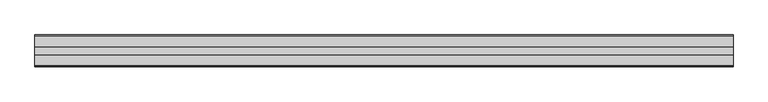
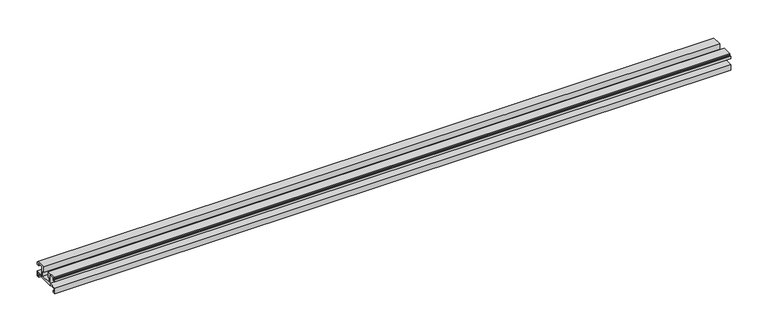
"""IFC4 building model written with IfcOpenShell, lengths in millimetres: proxy geometry, Weiku - Montante - Acoplamento vidro : Weiku - Montante - Acoplamento vidro."""

import ifcopenshell
import ifcopenshell.guid

model = None  # the IFC model being written
_history = None  # IfcOwnerHistory: only IFC2X3 demands one
_inside = {}  # id of a spatial element -> (the spatial element, [elements in it])
_under = {}  # id of a project, library or spatial element -> (it, [spatial elements below it])
_declared = {}  # id of a project -> (the project, [libraries it declares])
_typed = {}  # id of a type object -> (the type object, [elements of that type])
_made_of = {}  # id of a material, layer set ... -> (it, [elements and type objects made of it])


def new_model(schema):
    """Start an empty IFC model of exactly this schema.

    Asked for "IFC4X3", IfcOpenShell would pick the latest addendum, in which some entities
    have other attributes; the version numbers below select the first issue.
    IFC2X3 requires an IfcOwnerHistory on every rooted entity: one is made here for all.
    """
    global model, _history
    if schema == "IFC4X3":
        model = ifcopenshell.file(schema_version=(4, 3, 0, 0))
    else:
        model = ifcopenshell.file(schema=schema)
    _inside.clear()
    _under.clear()
    _declared.clear()
    _typed.clear()
    _made_of.clear()
    _history = None
    if model.schema == "IFC2X3":
        org = make("IfcOrganization", Name="unknown")
        user = make(
            "IfcPersonAndOrganization",
            ThePerson=make("IfcPerson", FamilyName="unknown"),
            TheOrganization=org,
        )
        app = make(
            "IfcApplication",
            ApplicationDeveloper=org,
            Version="unknown",
            ApplicationFullName="unknown",
            ApplicationIdentifier="unknown",
        )
        _history = make(
            "IfcOwnerHistory",
            OwningUser=user,
            OwningApplication=app,
            ChangeAction="ADDED",
            CreationDate=0,
        )
    return model


def make(cls, **values):
    """One entity of the class cls with the attributes given. An attribute that is None is left unset."""
    return model.create_entity(
        cls, **{name: value for name, value in values.items() if value is not None}
    )


def rooted(cls, **values):
    """An entity with a GlobalId (a new one), such as an element, a storey or a relation."""
    return make(cls, GlobalId=ifcopenshell.guid.new(), OwnerHistory=_history, **values)


def si_unit(unit_type, name, prefix=None):
    """IfcSIUnit, for example si_unit("LENGTHUNIT", "METRE", prefix="MILLI")."""
    return make("IfcSIUnit", UnitType=unit_type, Prefix=prefix, Name=name)


def assignment(units):
    """IfcUnitAssignment: the units of a project."""
    return None if units is None else make("IfcUnitAssignment", Units=units)


def point(xyz):
    """IfcCartesianPoint."""
    return None if xyz is None else make("IfcCartesianPoint", Coordinates=xyz)


def direction(xyz):
    """IfcDirection."""
    return None if xyz is None else make("IfcDirection", DirectionRatios=xyz)


def frame(location, z_axis=None, x_axis=None):
    """IfcAxis2Placement3D, a coordinate frame: its origin and axes. An axis left out is left unset."""
    return make(
        "IfcAxis2Placement3D",
        Location=point(location),
        Axis=direction(z_axis),
        RefDirection=direction(x_axis),
    )


def origin():
    """The frame at (0, 0, 0) with its axes left unset."""
    return frame((0.0, 0.0, 0.0))


def place(relative_to, where):
    """IfcLocalPlacement: puts the frame where relative to a parent placement (None: the world)."""
    return make(
        "IfcLocalPlacement", PlacementRelTo=relative_to, RelativePlacement=where
    )


def context(
    kind, dimensions, precision=None, world=None, true_north=None, identifier=None
):
    """IfcGeometricRepresentationContext, for example the 3D "Model" context."""
    return make(
        "IfcGeometricRepresentationContext",
        ContextIdentifier=identifier,
        ContextType=kind,
        CoordinateSpaceDimension=dimensions,
        Precision=precision,
        WorldCoordinateSystem=world,
        TrueNorth=true_north,
    )


def project(units=None, contexts=None):
    """IfcProject with its units and contexts."""
    return rooted(
        "IfcProject",
        Name="project",
        RepresentationContexts=contexts,
        UnitsInContext=assignment(units),
    )


def spatial(cls, under=None, at=None, **own):
    """A site, building, storey or space (cls), placed at a placement, below another one or the project."""
    s = rooted(cls, ObjectPlacement=at, **own)
    if under is not None:
        _under.setdefault(under.id(), (under, []))[1].append(s)
    return s


def polyline(points):
    """IfcPolyline through the points."""
    return make("IfcPolyline", Points=[point(p) for p in points])


def outline(outer, holes=None, kind="AREA"):
    """IfcArbitraryClosedProfileDef: a profile drawn as a closed curve; with holes, ...WithVoids."""
    if holes is None:
        return make("IfcArbitraryClosedProfileDef", ProfileType=kind, OuterCurve=outer)
    return make(
        "IfcArbitraryProfileDefWithVoids",
        ProfileType=kind,
        OuterCurve=outer,
        InnerCurves=holes,
    )


def extrude(swept, where, along, depth):
    """IfcExtrudedAreaSolid: the profile swept, set in the frame where, extruded along a direction by depth."""
    return make(
        "IfcExtrudedAreaSolid",
        SweptArea=swept,
        Position=where,
        ExtrudedDirection=direction(along),
        Depth=depth,
    )


def shape(context_of_items, identifier, shape_type, items):
    """IfcShapeRepresentation: the items that make up one representation, for example the "Body"."""
    return make(
        "IfcShapeRepresentation",
        ContextOfItems=context_of_items,
        RepresentationIdentifier=identifier,
        RepresentationType=shape_type,
        Items=items,
    )


def source(mapping_origin, context_of_items, identifier, shape_type, items):
    """IfcRepresentationMap: a shape defined once, which mapped items show again and again."""
    return make(
        "IfcRepresentationMap",
        MappingOrigin=mapping_origin,
        MappedRepresentation=shape(context_of_items, identifier, shape_type, items),
    )


def transform(
    local_origin,
    x_axis=None,
    y_axis=None,
    z_axis=None,
    scale=None,
    scale2=None,
    scale3=None,
    uniform=True,
):
    """IfcCartesianTransformationOperator3D, or its non-uniform kind. x_axis, y_axis, z_axis: its Axis1, 2, 3."""
    if uniform:
        return make(
            "IfcCartesianTransformationOperator3D",
            Axis1=direction(x_axis),
            Axis2=direction(y_axis),
            LocalOrigin=point(local_origin),
            Scale=scale,
            Axis3=direction(z_axis),
        )
    return make(
        "IfcCartesianTransformationOperator3DnonUniform",
        Axis1=direction(x_axis),
        Axis2=direction(y_axis),
        LocalOrigin=point(local_origin),
        Scale=scale,
        Axis3=direction(z_axis),
        Scale2=scale2,
        Scale3=scale3,
    )


def mapped(mapping_source, mapping_target):
    """IfcMappedItem: shows the shape of a source again, moved by a transform."""
    return make(
        "IfcMappedItem", MappingSource=mapping_source, MappingTarget=mapping_target
    )


def made_of(thing, what):
    """Note that an element or type object is made of a material, layer set ...; save() writes the relation."""
    if what is not None:
        _made_of.setdefault(what.id(), (what, []))[1].append(thing)
    return thing


def element(
    cls,
    number,
    at=None,
    inside=None,
    cuts=None,
    type_object=None,
    material=None,
    context=None,
    identifier="Body",
    shape_type=None,
    held_by="IfcProductDefinitionShape",
    body=None,
    shapes=None,
    **own,
):
    """One element of the class cls, such as IfcWall. Its Tag is "e" and its number.

    at: its placement. inside: the storey or other place that contains it. cuts: it is an
    opening in that element (IfcRelVoidsElement). A single representation is given by context,
    identifier, shape_type and body (its items); several are given by shapes. held_by: the class
    of the entity that holds the representations. save() writes the other relations.
    """
    e = rooted(cls, Tag="e%d" % number, ObjectPlacement=at, **own)
    if body is not None:
        shapes = [shape(context, identifier, shape_type, body)]
    if shapes is not None:
        e.Representation = make(held_by, Representations=shapes)
    if inside is not None:
        _inside.setdefault(inside.id(), (inside, []))[1].append(e)
    if cuts is not None:
        rooted(
            "IfcRelVoidsElement", RelatingBuildingElement=cuts, RelatedOpeningElement=e
        )
    if type_object is not None:
        _typed.setdefault(type_object.id(), (type_object, []))[1].append(e)
    return made_of(e, material)


def aggregate(whole, parts):
    """IfcRelAggregates: a whole, such as a stair, and the parts it consists of."""
    return rooted("IfcRelAggregates", RelatingObject=whole, RelatedObjects=parts)


def save(model, path):
    """Write the relations noted so far, then the file.

    IfcRelAggregates (storeys below a building ...), IfcRelContainedInSpatialStructure (elements
    in a storey), IfcRelDefinesByType, IfcRelAssociatesMaterial and IfcRelDeclares: one each for
    every whole, place, type object, material and project.
    """
    for whole, parts in _under.values():
        aggregate(whole, parts)
    for where, things in _inside.values():
        rooted(
            "IfcRelContainedInSpatialStructure",
            RelatedElements=things,
            RelatingStructure=where,
        )
    for kind, things in _typed.values():
        rooted("IfcRelDefinesByType", RelatedObjects=things, RelatingType=kind)
    for what, things in _made_of.values():
        rooted("IfcRelAssociatesMaterial", RelatedObjects=things, RelatingMaterial=what)
    for by, libraries in _declared.values():
        rooted("IfcRelDeclares", RelatingContext=by, RelatedDefinitions=libraries)
    model.write(path)


def generic_models_d1b9c6ea(model_context):
    return source(origin(), model_context, "Body", "SweptSolid", [
        extrude(outline(polyline([(35.405, 5.1494), (12.495, 5.1494), (12.495, 6.8004), (2.159, 6.8004), (2.159, 2.6094), (4.0216, 2.6094), (4.0216, 0.0), (-0.0014508, 0.0), (-0.0014508, 8.79), (12.954, 8.79), (12.954, 23.3104), (4.3603, 23.3104), (4.3603, 19.204), (0.0, 19.204), (0.0, 22.8024), (0.9736, 22.8024), (0.9736, 20.3894), (3.175, 20.3894), (3.175, 23.9454), (2.3735496, 23.9454), (2.3735496, 25.3), (17.4836, 25.3), (17.4836, 16.283), (15.4516, 16.283), (15.4516, 8.8), (32.4484, 8.8), (32.4484, 16.283), (30.4164, 16.283), (30.4164, 25.3), (45.5264504, 25.3), (45.5264504, 23.9454), (44.725, 23.9454), (44.725, 20.3894), (46.9264, 20.3894), (46.9264, 22.8024), (47.9, 22.8024), (47.9, 19.204), (43.5397, 19.204), (43.5397, 23.3104), (34.946, 23.3104), (34.946, 8.79), (47.9014508, 8.79), (47.9014508, 0.0), (43.8784, 0.0), (43.8784, 2.6094), (45.741, 2.6094), (45.741, 6.8004), (35.405, 6.8004), (35.405, 5.1494)])), frame((-525.2, 0.0, 0.0), z_axis=(1.0, 0.0, 0.0), x_axis=(0.0, 1.0, 0.0)), (0.0, 0.0, 1.0), 1050.4),
    ])


if __name__ == "__main__":
    model = new_model("IFC4")
    model_context = context("Model", 3, world=origin())
    ifc_project = project(units=[si_unit("LENGTHUNIT", "METRE", prefix="MILLI")], contexts=[model_context])
    site = spatial("IfcSite", under=ifc_project)
    building = spatial("IfcBuilding", under=site)
    placement = place(None, origin())
    generic_models_shape = generic_models_d1b9c6ea(model_context)
    element("IfcBuildingElementProxy", 1, Name="Weiku - Montante - Acoplamento vidro : Weiku - Montante - Acoplamento vidro", ObjectType="Weiku - Montante - Acoplamento vidro : Weiku - Montante - Acoplamento vidro", at=placement, inside=building, context=model_context, shape_type="MappedRepresentation", body=[
        mapped(generic_models_shape, transform((0.0, 0.0, 0.0), x_axis=(1.0, 0.0, 0.0), y_axis=(0.0, 1.0, 0.0), z_axis=(0.0, 0.0, 1.0))),
    ])
    save(model, "model.ifc")
